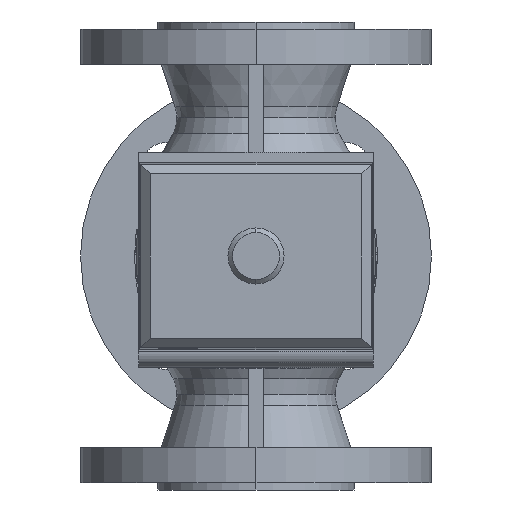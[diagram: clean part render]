
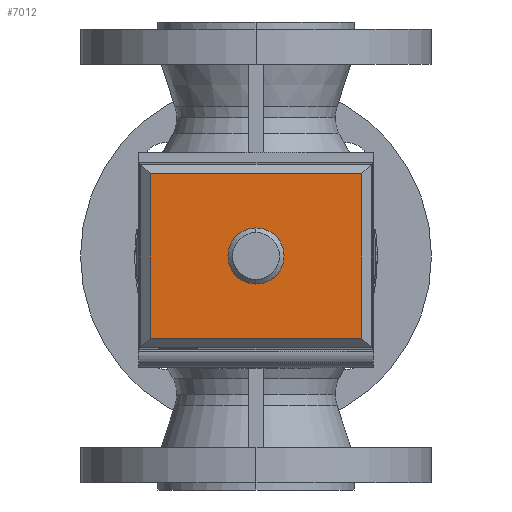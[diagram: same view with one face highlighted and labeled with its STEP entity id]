
A CAD part, front view. The second image highlights one B-rep face of the part: STEP entity #7012.
In plain terms, the highlighted planar face has unit normal (0, -1, 0).
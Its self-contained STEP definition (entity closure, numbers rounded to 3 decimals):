
#6837=CARTESIAN_POINT('',(45.222,-299.0,135.222));
#6838=VERTEX_POINT('',#6837);
#6845=CARTESIAN_POINT('',(45.222,-299.0,64.778));
#6846=VERTEX_POINT('',#6845);
#6847=CARTESIAN_POINT('',(45.222,-299.0,135.222));
#6848=DIRECTION('',(0.0,0.0,-1.0));
#6849=VECTOR('',#6848,70.444);
#6850=LINE('',#6847,#6849);
#6851=EDGE_CURVE('',#6838,#6846,#6850,.T.);
#6876=CARTESIAN_POINT('',(-45.222,-299.0,64.778));
#6877=VERTEX_POINT('',#6876);
#6878=CARTESIAN_POINT('',(45.222,-299.0,64.778));
#6879=DIRECTION('',(-1.0,0.0,0.0));
#6880=VECTOR('',#6879,90.444);
#6881=LINE('',#6878,#6880);
#6882=EDGE_CURVE('',#6846,#6877,#6881,.T.);
#6906=CARTESIAN_POINT('',(-45.222,-299.0,135.222));
#6907=VERTEX_POINT('',#6906);
#6914=CARTESIAN_POINT('',(-45.222,-299.0,135.222));
#6915=DIRECTION('',(1.0,0.0,0.0));
#6916=VECTOR('',#6915,90.444);
#6917=LINE('',#6914,#6916);
#6918=EDGE_CURVE('',#6907,#6838,#6917,.T.);
#6936=CARTESIAN_POINT('',(-45.222,-299.0,64.778));
#6937=DIRECTION('',(0.0,0.0,1.0));
#6938=VECTOR('',#6937,70.444);
#6939=LINE('',#6936,#6938);
#6940=EDGE_CURVE('',#6877,#6907,#6939,.T.);
#7001=CARTESIAN_POINT('',(0.,-299.0,100.));
#7002=DIRECTION('',(0.0,1.0,0.0));
#7003=DIRECTION('',(0.0,0.0,-1.0));
#7004=AXIS2_PLACEMENT_3D('',#7001,#7002,#7003);
#7005=PLANE('',#7004);
#7006=ORIENTED_EDGE('',*,*,#6851,.F.);
#7007=ORIENTED_EDGE('',*,*,#6918,.F.);
#7008=ORIENTED_EDGE('',*,*,#6940,.F.);
#7009=ORIENTED_EDGE('',*,*,#6882,.F.);
#7010=EDGE_LOOP('',(#7006,#7007,#7008,#7009));
#7011=FACE_OUTER_BOUND('',#7010,.T.);
#7012=ADVANCED_FACE('',(#7011),#7005,.F.);
